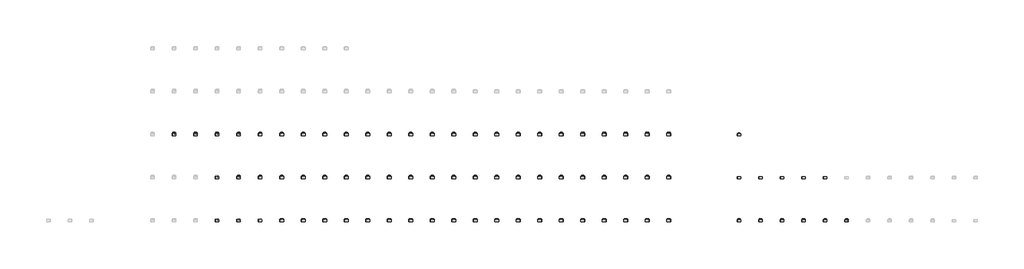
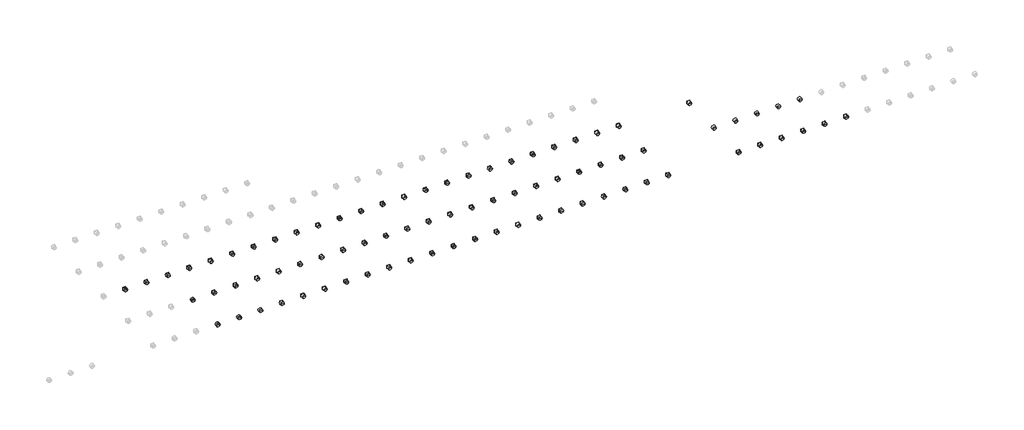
# One storey, part 8 of 18: 80 cable carrier fittings, 71 proxies.
"""IFC4 building model written with IfcOpenShell, lengths in millimetres."""

from ifc_helpers import new_model, si_unit, origin, place, context, project, spatial, transform, mapped, element, save
from components import electrical_fixtures_7a809f7f, electrical_fixtures_c40738ce, electrical_fixtures_fe53b4b8, electrical_fixtures_b8f18d17, electrical_fixtures_96b55c73, electrical_fixtures_2a9b6cd9, electrical_fixtures_82b3f8ca, cable_carrier_fitting_a64d4eba

model = new_model("IFC4")

# Units and contexts
model_context = context("Model", 3, world=origin())
ifc_project = project(units=[si_unit("LENGTHUNIT", "METRE", prefix="MILLI")], contexts=[model_context])

# Site, building, storey
site = spatial("IfcSite", under=ifc_project)
building = spatial("IfcBuilding", under=site)
storey = spatial("IfcBuildingStorey", under=building, Name="Этаж 01", Elevation=0.0)

# Proxies
placement = place(None, origin())
electrical_fixtures_shape = electrical_fixtures_7a809f7f(model_context)
element("IfcBuildingElementProxy", 1, Name="IEK_Brite_Механизм розетки 230В : 230 В_РС10-1-0-БрС", ObjectType="IEK_Brite_Механизм розетки 230В : 230 В_РС10-1-0-БрС", at=placement, inside=storey, context=model_context, shape_type="MappedRepresentation", body=[
    mapped(electrical_fixtures_shape, transform((42390.6847594, -17805.0, 0.0), x_axis=(1.0, 0.0, 0.0), y_axis=(0.0, 1.0, 0.0), z_axis=(0.0, 0.0, 1.0))),
])
element("IfcBuildingElementProxy", 2, Name="IEK_Brite_Механизм розетки 230В : 230 В_РС10-1-0-БрГ", ObjectType="IEK_Brite_Механизм розетки 230В : 230 В_РС10-1-0-БрГ", at=placement, inside=storey, context=model_context, shape_type="MappedRepresentation", body=[
    mapped(electrical_fixtures_shape, transform((42790.6847594, -17805.0, 0.0), x_axis=(1.0, 0.0, 0.0), y_axis=(0.0, 1.0, 0.0), z_axis=(0.0, 0.0, 1.0))),
])
element("IfcBuildingElementProxy", 3, Name="IEK_Brite_Механизм розетки 230В : 230 В_РС10-1-0-БрМ", ObjectType="IEK_Brite_Механизм розетки 230В : 230 В_РС10-1-0-БрМ", at=placement, inside=storey, context=model_context, shape_type="MappedRepresentation", body=[
    mapped(electrical_fixtures_shape, transform((43190.6847594, -17805.0, 0.0), x_axis=(1.0, 0.0, 0.0), y_axis=(0.0, 1.0, 0.0), z_axis=(0.0, 0.0, 1.0))),
])
element("IfcBuildingElementProxy", 4, Name="IEK_Brite_Механизм розетки 230В : 230 В_РС10-1-0-БрТБ", ObjectType="IEK_Brite_Механизм розетки 230В : 230 В_РС10-1-0-БрТБ", at=placement, inside=storey, context=model_context, shape_type="MappedRepresentation", body=[
    mapped(electrical_fixtures_shape, transform((43590.6847594, -17805.0, 0.0), x_axis=(1.0, 0.0, 0.0), y_axis=(0.0, 1.0, 0.0), z_axis=(0.0, 0.0, 1.0))),
])
electrical_fixtures_2_shape = electrical_fixtures_c40738ce(model_context)
element("IfcBuildingElementProxy", 5, Name="IEK_Brite_Механизм розетки 230В : 230 В PE_РС11-1-0-БрБ", ObjectType="IEK_Brite_Механизм розетки 230В : 230 В PE_РС11-1-0-БрБ", at=placement, inside=storey, context=model_context, shape_type="MappedRepresentation", body=[
    mapped(electrical_fixtures_2_shape, transform((43990.6847594, -17805.0, 0.0), x_axis=(1.0, 0.0, 0.0), y_axis=(0.0, 1.0, 0.0), z_axis=(0.0, 0.0, 1.0))),
])
element("IfcBuildingElementProxy", 6, Name="IEK_Brite_Механизм розетки 230В : 230 В PE_РС11-1-0-БрЧ", ObjectType="IEK_Brite_Механизм розетки 230В : 230 В PE_РС11-1-0-БрЧ", at=placement, inside=storey, context=model_context, shape_type="MappedRepresentation", body=[
    mapped(electrical_fixtures_2_shape, transform((44390.6847594, -17805.0, 0.0), x_axis=(1.0, 0.0, 0.0), y_axis=(0.0, 1.0, 0.0), z_axis=(0.0, 0.0, 1.0))),
])
element("IfcBuildingElementProxy", 7, Name="IEK_Brite_Механизм розетки 230В : 230 В PE_РС11-1-0-БрКр", ObjectType="IEK_Brite_Механизм розетки 230В : 230 В PE_РС11-1-0-БрКр", at=placement, inside=storey, context=model_context, shape_type="MappedRepresentation", body=[
    mapped(electrical_fixtures_2_shape, transform((44790.6847594, -17805.0, 0.0), x_axis=(1.0, 0.0, 0.0), y_axis=(0.0, 1.0, 0.0), z_axis=(0.0, 0.0, 1.0))),
])
element("IfcBuildingElementProxy", 8, Name="IEK_Brite_Механизм розетки 230В : 230 В PE_РС11-1-0-БрЖ", ObjectType="IEK_Brite_Механизм розетки 230В : 230 В PE_РС11-1-0-БрЖ", at=placement, inside=storey, context=model_context, shape_type="MappedRepresentation", body=[
    mapped(electrical_fixtures_2_shape, transform((45190.6847594, -17805.0, 0.0), x_axis=(1.0, 0.0, 0.0), y_axis=(0.0, 1.0, 0.0), z_axis=(0.0, 0.0, 1.0))),
])
element("IfcBuildingElementProxy", 9, Name="IEK_Brite_Механизм розетки 230В : 230 В PE_РС11-1-0-БрШ", ObjectType="IEK_Brite_Механизм розетки 230В : 230 В PE_РС11-1-0-БрШ", at=placement, inside=storey, context=model_context, shape_type="MappedRepresentation", body=[
    mapped(electrical_fixtures_2_shape, transform((45590.6847594, -17805.0, 0.0), x_axis=(1.0, 0.0, 0.0), y_axis=(0.0, 1.0, 0.0), z_axis=(0.0, 0.0, 1.0))),
])
element("IfcBuildingElementProxy", 10, Name="IEK_Brite_Механизм розетки 230В : 230 В PE_РС11-1-0-БрА", ObjectType="IEK_Brite_Механизм розетки 230В : 230 В PE_РС11-1-0-БрА", at=placement, inside=storey, context=model_context, shape_type="MappedRepresentation", body=[
    mapped(electrical_fixtures_2_shape, transform((45990.6847594, -17805.0, 0.0), x_axis=(1.0, 0.0, 0.0), y_axis=(0.0, 1.0, 0.0), z_axis=(0.0, 0.0, 1.0))),
])
element("IfcBuildingElementProxy", 11, Name="IEK_Brite_Механизм розетки 230В : 230 В PE_РС11-1-0-БрС", ObjectType="IEK_Brite_Механизм розетки 230В : 230 В PE_РС11-1-0-БрС", at=placement, inside=storey, context=model_context, shape_type="MappedRepresentation", body=[
    mapped(electrical_fixtures_2_shape, transform((46390.6847594, -17805.0, 0.0), x_axis=(1.0, 0.0, 0.0), y_axis=(0.0, 1.0, 0.0), z_axis=(0.0, 0.0, 1.0))),
])
element("IfcBuildingElementProxy", 12, Name="IEK_Brite_Механизм розетки 230В : 230 В PE_РС11-1-0-БрГ", ObjectType="IEK_Brite_Механизм розетки 230В : 230 В PE_РС11-1-0-БрГ", at=placement, inside=storey, context=model_context, shape_type="MappedRepresentation", body=[
    mapped(electrical_fixtures_2_shape, transform((46790.6847594, -17805.0, 0.0), x_axis=(1.0, 0.0, 0.0), y_axis=(0.0, 1.0, 0.0), z_axis=(0.0, 0.0, 1.0))),
])
element("IfcBuildingElementProxy", 13, Name="IEK_Brite_Механизм розетки 230В : 230 В PE_РС11-1-0-БрМ", ObjectType="IEK_Brite_Механизм розетки 230В : 230 В PE_РС11-1-0-БрМ", at=placement, inside=storey, context=model_context, shape_type="MappedRepresentation", body=[
    mapped(electrical_fixtures_2_shape, transform((47190.6847594, -17805.0, 0.0), x_axis=(1.0, 0.0, 0.0), y_axis=(0.0, 1.0, 0.0), z_axis=(0.0, 0.0, 1.0))),
])
element("IfcBuildingElementProxy", 14, Name="IEK_Brite_Механизм розетки 230В : 230 В PE_РС11-1-0-БрТБ", ObjectType="IEK_Brite_Механизм розетки 230В : 230 В PE_РС11-1-0-БрТБ", at=placement, inside=storey, context=model_context, shape_type="MappedRepresentation", body=[
    mapped(electrical_fixtures_2_shape, transform((47590.6847594, -17805.0, 0.0), x_axis=(1.0, 0.0, 0.0), y_axis=(0.0, 1.0, 0.0), z_axis=(0.0, 0.0, 1.0))),
])
element("IfcBuildingElementProxy", 15, Name="IEK_Brite_Механизм розетки 230В : 230 В шт._РСш10-2-БрБ", ObjectType="IEK_Brite_Механизм розетки 230В : 230 В шт._РСш10-2-БрБ", at=placement, inside=storey, context=model_context, shape_type="MappedRepresentation", body=[
    mapped(electrical_fixtures_shape, transform((47990.6847594, -17805.0, 0.0), x_axis=(1.0, 0.0, 0.0), y_axis=(0.0, 1.0, 0.0), z_axis=(0.0, 0.0, 1.0))),
])
element("IfcBuildingElementProxy", 16, Name="IEK_Brite_Механизм розетки 230В : 230 В шт._РСш10-2-БрЧ", ObjectType="IEK_Brite_Механизм розетки 230В : 230 В шт._РСш10-2-БрЧ", at=placement, inside=storey, context=model_context, shape_type="MappedRepresentation", body=[
    mapped(electrical_fixtures_shape, transform((48390.6847594, -17805.0, 0.0), x_axis=(1.0, 0.0, 0.0), y_axis=(0.0, 1.0, 0.0), z_axis=(0.0, 0.0, 1.0))),
])
element("IfcBuildingElementProxy", 17, Name="IEK_Brite_Механизм розетки 230В : 230 В шт._РСш10-2-БрКр", ObjectType="IEK_Brite_Механизм розетки 230В : 230 В шт._РСш10-2-БрКр", at=placement, inside=storey, context=model_context, shape_type="MappedRepresentation", body=[
    mapped(electrical_fixtures_shape, transform((48790.6847594, -17805.0, 0.0), x_axis=(1.0, 0.0, 0.0), y_axis=(0.0, 1.0, 0.0), z_axis=(0.0, 0.0, 1.0))),
])
element("IfcBuildingElementProxy", 18, Name="IEK_Brite_Механизм розетки 230В : 230 В шт._РСш10-2-БрЖ", ObjectType="IEK_Brite_Механизм розетки 230В : 230 В шт._РСш10-2-БрЖ", at=placement, inside=storey, context=model_context, shape_type="MappedRepresentation", body=[
    mapped(electrical_fixtures_shape, transform((49190.6847594, -17805.0, 0.0), x_axis=(1.0, 0.0, 0.0), y_axis=(0.0, 1.0, 0.0), z_axis=(0.0, 0.0, 1.0))),
])
element("IfcBuildingElementProxy", 19, Name="IEK_Brite_Механизм розетки 230В : 230 В шт._РСш10-2-БрШ", ObjectType="IEK_Brite_Механизм розетки 230В : 230 В шт._РСш10-2-БрШ", at=placement, inside=storey, context=model_context, shape_type="MappedRepresentation", body=[
    mapped(electrical_fixtures_shape, transform((49590.6847594, -17805.0, 0.0), x_axis=(1.0, 0.0, 0.0), y_axis=(0.0, 1.0, 0.0), z_axis=(0.0, 0.0, 1.0))),
])
element("IfcBuildingElementProxy", 20, Name="IEK_Brite_Механизм розетки 230В : 230 В шт._РСш10-2-БрТБ", ObjectType="IEK_Brite_Механизм розетки 230В : 230 В шт._РСш10-2-БрТБ", at=placement, inside=storey, context=model_context, shape_type="MappedRepresentation", body=[
    mapped(electrical_fixtures_shape, transform((41590.6847594, -17005.0, 0.0), x_axis=(1.0, 0.0, 0.0), y_axis=(0.0, 1.0, 0.0), z_axis=(0.0, 0.0, 1.0))),
])
element("IfcBuildingElementProxy", 21, Name="IEK_Brite_Механизм розетки 230В : 230 В PE+шт._РС14-1-0-БрБ", ObjectType="IEK_Brite_Механизм розетки 230В : 230 В PE+шт._РС14-1-0-БрБ", at=placement, inside=storey, context=model_context, shape_type="MappedRepresentation", body=[
    mapped(electrical_fixtures_2_shape, transform((41990.6847594, -17005.0, 0.0), x_axis=(1.0, 0.0, 0.0), y_axis=(0.0, 1.0, 0.0), z_axis=(0.0, 0.0, 1.0))),
])
element("IfcBuildingElementProxy", 22, Name="IEK_Brite_Механизм розетки 230В : 230 В PE+шт._РС14-1-0-БрЧ", ObjectType="IEK_Brite_Механизм розетки 230В : 230 В PE+шт._РС14-1-0-БрЧ", at=placement, inside=storey, context=model_context, shape_type="MappedRepresentation", body=[
    mapped(electrical_fixtures_2_shape, transform((42390.6847594, -17005.0, 0.0), x_axis=(1.0, 0.0, 0.0), y_axis=(0.0, 1.0, 0.0), z_axis=(0.0, 0.0, 1.0))),
])
element("IfcBuildingElementProxy", 23, Name="IEK_Brite_Механизм розетки 230В : 230 В PE+шт._РС14-1-0-БрКр", ObjectType="IEK_Brite_Механизм розетки 230В : 230 В PE+шт._РС14-1-0-БрКр", at=placement, inside=storey, context=model_context, shape_type="MappedRepresentation", body=[
    mapped(electrical_fixtures_2_shape, transform((42790.6847594, -17005.0, 0.0), x_axis=(1.0, 0.0, 0.0), y_axis=(0.0, 1.0, 0.0), z_axis=(0.0, 0.0, 1.0))),
])
element("IfcBuildingElementProxy", 24, Name="IEK_Brite_Механизм розетки 230В : 230 В PE+шт._РС14-1-0-БрЖ", ObjectType="IEK_Brite_Механизм розетки 230В : 230 В PE+шт._РС14-1-0-БрЖ", at=placement, inside=storey, context=model_context, shape_type="MappedRepresentation", body=[
    mapped(electrical_fixtures_2_shape, transform((43190.6847594, -17005.0, 0.0), x_axis=(1.0, 0.0, 0.0), y_axis=(0.0, 1.0, 0.0), z_axis=(0.0, 0.0, 1.0))),
])
element("IfcBuildingElementProxy", 25, Name="IEK_Brite_Механизм розетки 230В : 230 В PE+шт._РС14-1-0-БрШ", ObjectType="IEK_Brite_Механизм розетки 230В : 230 В PE+шт._РС14-1-0-БрШ", at=placement, inside=storey, context=model_context, shape_type="MappedRepresentation", body=[
    mapped(electrical_fixtures_2_shape, transform((43590.6847594, -17005.0, 0.0), x_axis=(1.0, 0.0, 0.0), y_axis=(0.0, 1.0, 0.0), z_axis=(0.0, 0.0, 1.0))),
])
element("IfcBuildingElementProxy", 26, Name="IEK_Brite_Механизм розетки 230В : 230 В PE+шт._РС14-1-0-БрА", ObjectType="IEK_Brite_Механизм розетки 230В : 230 В PE+шт._РС14-1-0-БрА", at=placement, inside=storey, context=model_context, shape_type="MappedRepresentation", body=[
    mapped(electrical_fixtures_2_shape, transform((43990.6847594, -17005.0, 0.0), x_axis=(1.0, 0.0, 0.0), y_axis=(0.0, 1.0, 0.0), z_axis=(0.0, 0.0, 1.0))),
])
element("IfcBuildingElementProxy", 27, Name="IEK_Brite_Механизм розетки 230В : 230 В PE+шт._РС14-1-0-БрС", ObjectType="IEK_Brite_Механизм розетки 230В : 230 В PE+шт._РС14-1-0-БрС", at=placement, inside=storey, context=model_context, shape_type="MappedRepresentation", body=[
    mapped(electrical_fixtures_2_shape, transform((44390.6847594, -17005.0, 0.0), x_axis=(1.0, 0.0, 0.0), y_axis=(0.0, 1.0, 0.0), z_axis=(0.0, 0.0, 1.0))),
])
element("IfcBuildingElementProxy", 28, Name="IEK_Brite_Механизм розетки 230В : 230 В PE+шт._РС14-1-0-БрГ", ObjectType="IEK_Brite_Механизм розетки 230В : 230 В PE+шт._РС14-1-0-БрГ", at=placement, inside=storey, context=model_context, shape_type="MappedRepresentation", body=[
    mapped(electrical_fixtures_2_shape, transform((44790.6847594, -17005.0, 0.0), x_axis=(1.0, 0.0, 0.0), y_axis=(0.0, 1.0, 0.0), z_axis=(0.0, 0.0, 1.0))),
])
element("IfcBuildingElementProxy", 29, Name="IEK_Brite_Механизм розетки 230В : 230 В PE+шт._РС14-1-0-БрМ", ObjectType="IEK_Brite_Механизм розетки 230В : 230 В PE+шт._РС14-1-0-БрМ", at=placement, inside=storey, context=model_context, shape_type="MappedRepresentation", body=[
    mapped(electrical_fixtures_2_shape, transform((45190.6847594, -17005.0, 0.0), x_axis=(1.0, 0.0, 0.0), y_axis=(0.0, 1.0, 0.0), z_axis=(0.0, 0.0, 1.0))),
])
element("IfcBuildingElementProxy", 30, Name="IEK_Brite_Механизм розетки 230В : 230 В PE+шт._РС14-1-0-БрТБ", ObjectType="IEK_Brite_Механизм розетки 230В : 230 В PE+шт._РС14-1-0-БрТБ", at=placement, inside=storey, context=model_context, shape_type="MappedRepresentation", body=[
    mapped(electrical_fixtures_2_shape, transform((45590.6847594, -17005.0, 0.0), x_axis=(1.0, 0.0, 0.0), y_axis=(0.0, 1.0, 0.0), z_axis=(0.0, 0.0, 1.0))),
])
electrical_fixtures_3_shape = electrical_fixtures_fe53b4b8(model_context)
element("IfcBuildingElementProxy", 31, Name="IEK_Brite_Механизм розетки 230В : 230 В PE+шт. USB A+A_РЮш10-1-БрБ", ObjectType="IEK_Brite_Механизм розетки 230В : 230 В PE+шт. USB A+A_РЮш10-1-БрБ", at=placement, inside=storey, context=model_context, shape_type="MappedRepresentation", body=[
    mapped(electrical_fixtures_3_shape, transform((45990.6847594, -17005.0, 0.0), x_axis=(1.0, 0.0, 0.0), y_axis=(0.0, 1.0, 0.0), z_axis=(0.0, 0.0, 1.0))),
])
element("IfcBuildingElementProxy", 32, Name="IEK_Brite_Механизм розетки 230В : 230 В PE+шт. USB A+A_РЮш10-1-БрЧ", ObjectType="IEK_Brite_Механизм розетки 230В : 230 В PE+шт. USB A+A_РЮш10-1-БрЧ", at=placement, inside=storey, context=model_context, shape_type="MappedRepresentation", body=[
    mapped(electrical_fixtures_3_shape, transform((46390.6847594, -17005.0, 0.0), x_axis=(1.0, 0.0, 0.0), y_axis=(0.0, 1.0, 0.0), z_axis=(0.0, 0.0, 1.0))),
])
element("IfcBuildingElementProxy", 33, Name="IEK_Brite_Механизм розетки 230В : 230 В PE+шт. USB A+A_РЮш10-1-БрКр", ObjectType="IEK_Brite_Механизм розетки 230В : 230 В PE+шт. USB A+A_РЮш10-1-БрКр", at=placement, inside=storey, context=model_context, shape_type="MappedRepresentation", body=[
    mapped(electrical_fixtures_3_shape, transform((46790.6847594, -17005.0, 0.0), x_axis=(1.0, 0.0, 0.0), y_axis=(0.0, 1.0, 0.0), z_axis=(0.0, 0.0, 1.0))),
])
element("IfcBuildingElementProxy", 34, Name="IEK_Brite_Механизм розетки 230В : 230 В PE+шт. USB A+A_РЮш10-1-БрЖ", ObjectType="IEK_Brite_Механизм розетки 230В : 230 В PE+шт. USB A+A_РЮш10-1-БрЖ", at=placement, inside=storey, context=model_context, shape_type="MappedRepresentation", body=[
    mapped(electrical_fixtures_3_shape, transform((47190.6847594, -17005.0, 0.0), x_axis=(1.0, 0.0, 0.0), y_axis=(0.0, 1.0, 0.0), z_axis=(0.0, 0.0, 1.0))),
])
element("IfcBuildingElementProxy", 35, Name="IEK_Brite_Механизм розетки 230В : 230 В PE+шт. USB A+A_РЮш10-1-БрШ", ObjectType="IEK_Brite_Механизм розетки 230В : 230 В PE+шт. USB A+A_РЮш10-1-БрШ", at=placement, inside=storey, context=model_context, shape_type="MappedRepresentation", body=[
    mapped(electrical_fixtures_3_shape, transform((47590.6847594, -17005.0, 0.0), x_axis=(1.0, 0.0, 0.0), y_axis=(0.0, 1.0, 0.0), z_axis=(0.0, 0.0, 1.0))),
])
element("IfcBuildingElementProxy", 36, Name="IEK_Brite_Механизм розетки 230В : 230 В PE+шт. USB A+A_РЮш10-1-БрА", ObjectType="IEK_Brite_Механизм розетки 230В : 230 В PE+шт. USB A+A_РЮш10-1-БрА", at=placement, inside=storey, context=model_context, shape_type="MappedRepresentation", body=[
    mapped(electrical_fixtures_3_shape, transform((47990.6847594, -17005.0, 0.0), x_axis=(1.0, 0.0, 0.0), y_axis=(0.0, 1.0, 0.0), z_axis=(0.0, 0.0, 1.0))),
])
element("IfcBuildingElementProxy", 37, Name="IEK_Brite_Механизм розетки 230В : 230 В PE+шт. USB A+A_РЮш10-1-БрС", ObjectType="IEK_Brite_Механизм розетки 230В : 230 В PE+шт. USB A+A_РЮш10-1-БрС", at=placement, inside=storey, context=model_context, shape_type="MappedRepresentation", body=[
    mapped(electrical_fixtures_3_shape, transform((48390.6847594, -17005.0, 0.0), x_axis=(1.0, 0.0, 0.0), y_axis=(0.0, 1.0, 0.0), z_axis=(0.0, 0.0, 1.0))),
])
element("IfcBuildingElementProxy", 38, Name="IEK_Brite_Механизм розетки 230В : 230 В PE+шт. USB A+A_РЮш10-1-БрГ", ObjectType="IEK_Brite_Механизм розетки 230В : 230 В PE+шт. USB A+A_РЮш10-1-БрГ", at=placement, inside=storey, context=model_context, shape_type="MappedRepresentation", body=[
    mapped(electrical_fixtures_3_shape, transform((48790.6847594, -17005.0, 0.0), x_axis=(1.0, 0.0, 0.0), y_axis=(0.0, 1.0, 0.0), z_axis=(0.0, 0.0, 1.0))),
])
element("IfcBuildingElementProxy", 39, Name="IEK_Brite_Механизм розетки 230В : 230 В PE+шт. USB A+A_РЮш10-1-БрМ", ObjectType="IEK_Brite_Механизм розетки 230В : 230 В PE+шт. USB A+A_РЮш10-1-БрМ", at=placement, inside=storey, context=model_context, shape_type="MappedRepresentation", body=[
    mapped(electrical_fixtures_3_shape, transform((49190.6847594, -17005.0, 0.0), x_axis=(1.0, 0.0, 0.0), y_axis=(0.0, 1.0, 0.0), z_axis=(0.0, 0.0, 1.0))),
])
element("IfcBuildingElementProxy", 40, Name="IEK_Brite_Механизм розетки 230В : 230 В PE+шт. USB A+A_РЮш10-1-БрТБ", ObjectType="IEK_Brite_Механизм розетки 230В : 230 В PE+шт. USB A+A_РЮш10-1-БрТБ", at=placement, inside=storey, context=model_context, shape_type="MappedRepresentation", body=[
    mapped(electrical_fixtures_3_shape, transform((49590.6847594, -17005.0, 0.0), x_axis=(1.0, 0.0, 0.0), y_axis=(0.0, 1.0, 0.0), z_axis=(0.0, 0.0, 1.0))),
])
element("IfcBuildingElementProxy", 41, Name="IEK_Brite_Механизм розетки 230В : 230 В PE+шт. USB A+A_РЮш10-2-БрЧ", ObjectType="IEK_Brite_Механизм розетки 230В : 230 В PE+шт. USB A+A_РЮш10-2-БрЧ", at=placement, inside=storey, context=model_context, shape_type="MappedRepresentation", body=[
    mapped(electrical_fixtures_3_shape, transform((40390.6847594, -16205.0, 0.0), x_axis=(1.0, 0.0, 0.0), y_axis=(0.0, 1.0, 0.0), z_axis=(0.0, 0.0, 1.0))),
])
element("IfcBuildingElementProxy", 42, Name="IEK_Brite_Механизм розетки 230В : 230 В PE+шт. USB A+A_РЮш10-2-БрКр", ObjectType="IEK_Brite_Механизм розетки 230В : 230 В PE+шт. USB A+A_РЮш10-2-БрКр", at=placement, inside=storey, context=model_context, shape_type="MappedRepresentation", body=[
    mapped(electrical_fixtures_3_shape, transform((40790.6847594, -16205.0, 0.0), x_axis=(1.0, 0.0, 0.0), y_axis=(0.0, 1.0, 0.0), z_axis=(0.0, 0.0, 1.0))),
])
element("IfcBuildingElementProxy", 43, Name="IEK_Brite_Механизм розетки 230В : 230 В PE+шт. USB A+A_РЮш10-2-БрЖ", ObjectType="IEK_Brite_Механизм розетки 230В : 230 В PE+шт. USB A+A_РЮш10-2-БрЖ", at=placement, inside=storey, context=model_context, shape_type="MappedRepresentation", body=[
    mapped(electrical_fixtures_3_shape, transform((41190.6847594, -16205.0, 0.0), x_axis=(1.0, 0.0, 0.0), y_axis=(0.0, 1.0, 0.0), z_axis=(0.0, 0.0, 1.0))),
])
element("IfcBuildingElementProxy", 44, Name="IEK_Brite_Механизм розетки 230В : 230 В PE+шт. USB A+A_РЮш10-2-БрШ", ObjectType="IEK_Brite_Механизм розетки 230В : 230 В PE+шт. USB A+A_РЮш10-2-БрШ", at=placement, inside=storey, context=model_context, shape_type="MappedRepresentation", body=[
    mapped(electrical_fixtures_3_shape, transform((41590.6847594, -16205.0, 0.0), x_axis=(1.0, 0.0, 0.0), y_axis=(0.0, 1.0, 0.0), z_axis=(0.0, 0.0, 1.0))),
])
element("IfcBuildingElementProxy", 45, Name="IEK_Brite_Механизм розетки 230В : 230 В PE+шт. USB A+A_РЮш10-2-БрА", ObjectType="IEK_Brite_Механизм розетки 230В : 230 В PE+шт. USB A+A_РЮш10-2-БрА", at=placement, inside=storey, context=model_context, shape_type="MappedRepresentation", body=[
    mapped(electrical_fixtures_3_shape, transform((41990.6847594, -16205.0, 0.0), x_axis=(1.0, 0.0, 0.0), y_axis=(0.0, 1.0, 0.0), z_axis=(0.0, 0.0, 1.0))),
])
element("IfcBuildingElementProxy", 46, Name="IEK_Brite_Механизм розетки 230В : 230 В PE+шт. USB A+A_РЮш10-2-БрС", ObjectType="IEK_Brite_Механизм розетки 230В : 230 В PE+шт. USB A+A_РЮш10-2-БрС", at=placement, inside=storey, context=model_context, shape_type="MappedRepresentation", body=[
    mapped(electrical_fixtures_3_shape, transform((42390.6847594, -16205.0, 0.0), x_axis=(1.0, 0.0, 0.0), y_axis=(0.0, 1.0, 0.0), z_axis=(0.0, 0.0, 1.0))),
])
element("IfcBuildingElementProxy", 47, Name="IEK_Brite_Механизм розетки 230В : 230 В PE+шт. USB A+A_РЮш10-2-БрГ", ObjectType="IEK_Brite_Механизм розетки 230В : 230 В PE+шт. USB A+A_РЮш10-2-БрГ", at=placement, inside=storey, context=model_context, shape_type="MappedRepresentation", body=[
    mapped(electrical_fixtures_3_shape, transform((42790.6847594, -16205.0, 0.0), x_axis=(1.0, 0.0, 0.0), y_axis=(0.0, 1.0, 0.0), z_axis=(0.0, 0.0, 1.0))),
])
element("IfcBuildingElementProxy", 48, Name="IEK_Brite_Механизм розетки 230В : 230 В PE+шт. USB A+A_РЮш10-2-БрМ", ObjectType="IEK_Brite_Механизм розетки 230В : 230 В PE+шт. USB A+A_РЮш10-2-БрМ", at=placement, inside=storey, context=model_context, shape_type="MappedRepresentation", body=[
    mapped(electrical_fixtures_3_shape, transform((43190.6847594, -16205.0, 0.0), x_axis=(1.0, 0.0, 0.0), y_axis=(0.0, 1.0, 0.0), z_axis=(0.0, 0.0, 1.0))),
])
element("IfcBuildingElementProxy", 49, Name="IEK_Brite_Механизм розетки 230В : 230 В PE+шт. USB A+A_РЮш10-2-БрТБ", ObjectType="IEK_Brite_Механизм розетки 230В : 230 В PE+шт. USB A+A_РЮш10-2-БрТБ", at=placement, inside=storey, context=model_context, shape_type="MappedRepresentation", body=[
    mapped(electrical_fixtures_3_shape, transform((43590.6847594, -16205.0, 0.0), x_axis=(1.0, 0.0, 0.0), y_axis=(0.0, 1.0, 0.0), z_axis=(0.0, 0.0, 1.0))),
])
electrical_fixtures_4_shape = electrical_fixtures_b8f18d17(model_context)
element("IfcBuildingElementProxy", 50, Name="IEK_Brite_Механизм розетки 230В : 230 В PE+шт. USB A+C_РЮш11-1-БрБ", ObjectType="IEK_Brite_Механизм розетки 230В : 230 В PE+шт. USB A+C_РЮш11-1-БрБ", at=placement, inside=storey, context=model_context, shape_type="MappedRepresentation", body=[
    mapped(electrical_fixtures_4_shape, transform((43990.6847594, -16205.0, 0.0), x_axis=(1.0, 0.0, 0.0), y_axis=(0.0, 1.0, 0.0), z_axis=(0.0, 0.0, 1.0))),
])
element("IfcBuildingElementProxy", 51, Name="IEK_Brite_Механизм розетки 230В : 230 В PE+шт. USB A+C_РЮш11-1-БрЧ", ObjectType="IEK_Brite_Механизм розетки 230В : 230 В PE+шт. USB A+C_РЮш11-1-БрЧ", at=placement, inside=storey, context=model_context, shape_type="MappedRepresentation", body=[
    mapped(electrical_fixtures_4_shape, transform((44390.6847594, -16205.0, 0.0), x_axis=(1.0, 0.0, 0.0), y_axis=(0.0, 1.0, 0.0), z_axis=(0.0, 0.0, 1.0))),
])
element("IfcBuildingElementProxy", 52, Name="IEK_Brite_Механизм розетки 230В : 230 В PE+шт. USB A+C_РЮш11-1-БрКр", ObjectType="IEK_Brite_Механизм розетки 230В : 230 В PE+шт. USB A+C_РЮш11-1-БрКр", at=placement, inside=storey, context=model_context, shape_type="MappedRepresentation", body=[
    mapped(electrical_fixtures_4_shape, transform((44790.6847594, -16205.0, 0.0), x_axis=(1.0, 0.0, 0.0), y_axis=(0.0, 1.0, 0.0), z_axis=(0.0, 0.0, 1.0))),
])
element("IfcBuildingElementProxy", 53, Name="IEK_Brite_Механизм розетки 230В : 230 В PE+шт. USB A+C_РЮш11-1-БрЖ", ObjectType="IEK_Brite_Механизм розетки 230В : 230 В PE+шт. USB A+C_РЮш11-1-БрЖ", at=placement, inside=storey, context=model_context, shape_type="MappedRepresentation", body=[
    mapped(electrical_fixtures_4_shape, transform((45190.6847594, -16205.0, 0.0), x_axis=(1.0, 0.0, 0.0), y_axis=(0.0, 1.0, 0.0), z_axis=(0.0, 0.0, 1.0))),
])
element("IfcBuildingElementProxy", 54, Name="IEK_Brite_Механизм розетки 230В : 230 В PE+шт. USB A+C_РЮш11-1-БрШ", ObjectType="IEK_Brite_Механизм розетки 230В : 230 В PE+шт. USB A+C_РЮш11-1-БрШ", at=placement, inside=storey, context=model_context, shape_type="MappedRepresentation", body=[
    mapped(electrical_fixtures_4_shape, transform((45590.6847594, -16205.0, 0.0), x_axis=(1.0, 0.0, 0.0), y_axis=(0.0, 1.0, 0.0), z_axis=(0.0, 0.0, 1.0))),
])
element("IfcBuildingElementProxy", 55, Name="IEK_Brite_Механизм розетки 230В : 230 В PE+шт. USB A+C_РЮш11-1-БрА", ObjectType="IEK_Brite_Механизм розетки 230В : 230 В PE+шт. USB A+C_РЮш11-1-БрА", at=placement, inside=storey, context=model_context, shape_type="MappedRepresentation", body=[
    mapped(electrical_fixtures_4_shape, transform((45990.6847594, -16205.0, 0.0), x_axis=(1.0, 0.0, 0.0), y_axis=(0.0, 1.0, 0.0), z_axis=(0.0, 0.0, 1.0))),
])
element("IfcBuildingElementProxy", 56, Name="IEK_Brite_Механизм розетки 230В : 230 В PE+шт. USB A+C_РЮш11-1-БрС", ObjectType="IEK_Brite_Механизм розетки 230В : 230 В PE+шт. USB A+C_РЮш11-1-БрС", at=placement, inside=storey, context=model_context, shape_type="MappedRepresentation", body=[
    mapped(electrical_fixtures_4_shape, transform((46390.6847594, -16205.0, 0.0), x_axis=(1.0, 0.0, 0.0), y_axis=(0.0, 1.0, 0.0), z_axis=(0.0, 0.0, 1.0))),
])
element("IfcBuildingElementProxy", 57, Name="IEK_Brite_Механизм розетки 230В : 230 В PE+шт. USB A+C_РЮш11-1-БрГ", ObjectType="IEK_Brite_Механизм розетки 230В : 230 В PE+шт. USB A+C_РЮш11-1-БрГ", at=placement, inside=storey, context=model_context, shape_type="MappedRepresentation", body=[
    mapped(electrical_fixtures_4_shape, transform((46790.6847594, -16205.0, 0.0), x_axis=(1.0, 0.0, 0.0), y_axis=(0.0, 1.0, 0.0), z_axis=(0.0, 0.0, 1.0))),
])
element("IfcBuildingElementProxy", 58, Name="IEK_Brite_Механизм розетки 230В : 230 В PE+шт. USB A+C_РЮш11-1-БрМ", ObjectType="IEK_Brite_Механизм розетки 230В : 230 В PE+шт. USB A+C_РЮш11-1-БрМ", at=placement, inside=storey, context=model_context, shape_type="MappedRepresentation", body=[
    mapped(electrical_fixtures_4_shape, transform((47190.6847594, -16205.0, 0.0), x_axis=(1.0, 0.0, 0.0), y_axis=(0.0, 1.0, 0.0), z_axis=(0.0, 0.0, 1.0))),
])
element("IfcBuildingElementProxy", 59, Name="IEK_Brite_Механизм розетки 230В : 230 В PE+шт. USB A+C_РЮш11-1-БрТБ", ObjectType="IEK_Brite_Механизм розетки 230В : 230 В PE+шт. USB A+C_РЮш11-1-БрТБ", at=placement, inside=storey, context=model_context, shape_type="MappedRepresentation", body=[
    mapped(electrical_fixtures_4_shape, transform((47590.6847594, -16205.0, 0.0), x_axis=(1.0, 0.0, 0.0), y_axis=(0.0, 1.0, 0.0), z_axis=(0.0, 0.0, 1.0))),
])
electrical_fixtures_5_shape = electrical_fixtures_96b55c73(model_context)
element("IfcBuildingElementProxy", 60, Name="IEK_Brite_Механизм розетки 230В : 230 В PE+шт.+кр. IP44_РСбш10-3-44-БрБ", ObjectType="IEK_Brite_Механизм розетки 230В : 230 В PE+шт.+кр. IP44_РСбш10-3-44-БрБ", at=placement, inside=storey, context=model_context, shape_type="MappedRepresentation", body=[
    mapped(electrical_fixtures_5_shape, transform((47990.6847594, -16205.0, 0.0), x_axis=(1.0, 0.0, 0.0), y_axis=(0.0, 1.0, 0.0), z_axis=(0.0, 0.0, 1.0))),
])
element("IfcBuildingElementProxy", 61, Name="IEK_Brite_Механизм розетки 230В : 230 В PE+шт.+кр. IP44_РСбш10-3-44-БрЧ", ObjectType="IEK_Brite_Механизм розетки 230В : 230 В PE+шт.+кр. IP44_РСбш10-3-44-БрЧ", at=placement, inside=storey, context=model_context, shape_type="MappedRepresentation", body=[
    mapped(electrical_fixtures_5_shape, transform((48390.6847594, -16205.0, 0.0), x_axis=(1.0, 0.0, 0.0), y_axis=(0.0, 1.0, 0.0), z_axis=(0.0, 0.0, 1.0))),
])
element("IfcBuildingElementProxy", 62, Name="IEK_Brite_Механизм розетки 230В : 230 В PE+шт.+кр. IP44_РСбш10-3-44-БрКр", ObjectType="IEK_Brite_Механизм розетки 230В : 230 В PE+шт.+кр. IP44_РСбш10-3-44-БрКр", at=placement, inside=storey, context=model_context, shape_type="MappedRepresentation", body=[
    mapped(electrical_fixtures_5_shape, transform((48790.6847594, -16205.0, 0.0), x_axis=(1.0, 0.0, 0.0), y_axis=(0.0, 1.0, 0.0), z_axis=(0.0, 0.0, 1.0))),
])
element("IfcBuildingElementProxy", 63, Name="IEK_Brite_Механизм розетки 230В : 230 В PE+шт.+кр. IP44_РСбш10-3-44-БрЖ", ObjectType="IEK_Brite_Механизм розетки 230В : 230 В PE+шт.+кр. IP44_РСбш10-3-44-БрЖ", at=placement, inside=storey, context=model_context, shape_type="MappedRepresentation", body=[
    mapped(electrical_fixtures_5_shape, transform((49190.6847594, -16205.0, 0.0), x_axis=(1.0, 0.0, 0.0), y_axis=(0.0, 1.0, 0.0), z_axis=(0.0, 0.0, 1.0))),
])
element("IfcBuildingElementProxy", 64, Name="IEK_Brite_Механизм розетки 230В : 230 В PE+шт.+кр. IP44_РСбш10-3-44-БрШ", ObjectType="IEK_Brite_Механизм розетки 230В : 230 В PE+шт.+кр. IP44_РСбш10-3-44-БрШ", at=placement, inside=storey, context=model_context, shape_type="MappedRepresentation", body=[
    mapped(electrical_fixtures_5_shape, transform((49590.6847594, -16205.0, 0.0), x_axis=(1.0, 0.0, 0.0), y_axis=(0.0, 1.0, 0.0), z_axis=(0.0, 0.0, 1.0))),
])
electrical_fixtures_6_shape = electrical_fixtures_2a9b6cd9(model_context)
element("IfcBuildingElementProxy", 65, Name="IEK_Brite_Механизм розетки информационной : RJ45+RJ11_РК/Т12-БрА", ObjectType="IEK_Brite_Механизм розетки информационной : RJ45+RJ11_РК/Т12-БрА", at=placement, inside=storey, context=model_context, shape_type="MappedRepresentation", body=[
    mapped(electrical_fixtures_6_shape, transform((50896.7386318, -17813.0, 0.0), x_axis=(1.0, 0.0, 0.0), y_axis=(0.0, 1.0, 0.0), z_axis=(0.0, 0.0, 1.0))),
])
element("IfcBuildingElementProxy", 66, Name="IEK_Brite_Механизм розетки информационной : RJ45+RJ11_РК/Т12-БрБ", ObjectType="IEK_Brite_Механизм розетки информационной : RJ45+RJ11_РК/Т12-БрБ", at=placement, inside=storey, context=model_context, shape_type="MappedRepresentation", body=[
    mapped(electrical_fixtures_6_shape, transform((51296.7386318, -17813.0, 0.0), x_axis=(1.0, 0.0, 0.0), y_axis=(0.0, 1.0, 0.0), z_axis=(0.0, 0.0, 1.0))),
])
element("IfcBuildingElementProxy", 67, Name="IEK_Brite_Механизм розетки информационной : RJ45+RJ11_РК/Т12-БрГ", ObjectType="IEK_Brite_Механизм розетки информационной : RJ45+RJ11_РК/Т12-БрГ", at=placement, inside=storey, context=model_context, shape_type="MappedRepresentation", body=[
    mapped(electrical_fixtures_6_shape, transform((51696.7386318, -17813.0, 0.0), x_axis=(1.0, 0.0, 0.0), y_axis=(0.0, 1.0, 0.0), z_axis=(0.0, 0.0, 1.0))),
])
element("IfcBuildingElementProxy", 68, Name="IEK_Brite_Механизм розетки информационной : RJ45+RJ11_РК/Т12-БрЖ", ObjectType="IEK_Brite_Механизм розетки информационной : RJ45+RJ11_РК/Т12-БрЖ", at=placement, inside=storey, context=model_context, shape_type="MappedRepresentation", body=[
    mapped(electrical_fixtures_6_shape, transform((52096.7386318, -17813.0, 0.0), x_axis=(1.0, 0.0, 0.0), y_axis=(0.0, 1.0, 0.0), z_axis=(0.0, 0.0, 1.0))),
])
element("IfcBuildingElementProxy", 69, Name="IEK_Brite_Механизм розетки информационной : RJ45+RJ11_РК/Т12-БрКр", ObjectType="IEK_Brite_Механизм розетки информационной : RJ45+RJ11_РК/Т12-БрКр", at=placement, inside=storey, context=model_context, shape_type="MappedRepresentation", body=[
    mapped(electrical_fixtures_6_shape, transform((52496.7386318, -17813.0, 0.0), x_axis=(1.0, 0.0, 0.0), y_axis=(0.0, 1.0, 0.0), z_axis=(0.0, 0.0, 1.0))),
])
element("IfcBuildingElementProxy", 70, Name="IEK_Brite_Механизм розетки информационной : RJ45+RJ11_РК/Т12-БрМ", ObjectType="IEK_Brite_Механизм розетки информационной : RJ45+RJ11_РК/Т12-БрМ", at=placement, inside=storey, context=model_context, shape_type="MappedRepresentation", body=[
    mapped(electrical_fixtures_6_shape, transform((52896.7386318, -17813.0, 0.0), x_axis=(1.0, 0.0, 0.0), y_axis=(0.0, 1.0, 0.0), z_axis=(0.0, 0.0, 1.0))),
])
electrical_fixtures_7_shape = electrical_fixtures_82b3f8ca(model_context)
element("IfcBuildingElementProxy", 71, Name="IEK_Brite_Механизм розетки информационной : RJ11_РТ10-БрБ", ObjectType="IEK_Brite_Механизм розетки информационной : RJ11_РТ10-БрБ", at=placement, inside=storey, context=model_context, shape_type="MappedRepresentation", body=[
    mapped(electrical_fixtures_7_shape, transform((50896.7386318, -16213.0, 0.0), x_axis=(1.0, 0.0, 0.0), y_axis=(0.0, 1.0, 0.0), z_axis=(0.0, 0.0, 1.0))),
])

# Cable carrier fittings
cable_carrier_fitting_shape = cable_carrier_fitting_a64d4eba(model_context)
element("IfcCableCarrierFitting", 72, ObjectType="IEK_Коробка монтажная : стены_полые", at=placement, inside=storey, context=model_context, shape_type="MappedRepresentation", body=[
    mapped(cable_carrier_fitting_shape, transform((50896.7386318, -17813.0, 0.0), x_axis=(1.0, 0.0, 0.0), y_axis=(0.0, 1.0, 0.0), z_axis=(0.0, 0.0, 1.0))),
])
element("IfcCableCarrierFitting", 73, ObjectType="IEK_Коробка монтажная : стены_полые", at=placement, inside=storey, context=model_context, shape_type="MappedRepresentation", body=[
    mapped(cable_carrier_fitting_shape, transform((51296.7386318, -17813.0, 0.0), x_axis=(1.0, 0.0, 0.0), y_axis=(0.0, 1.0, 0.0), z_axis=(0.0, 0.0, 1.0))),
])
element("IfcCableCarrierFitting", 74, ObjectType="IEK_Коробка монтажная : стены_полые", at=placement, inside=storey, context=model_context, shape_type="MappedRepresentation", body=[
    mapped(cable_carrier_fitting_shape, transform((51696.7386318, -17813.0, 0.0), x_axis=(1.0, 0.0, 0.0), y_axis=(0.0, 1.0, 0.0), z_axis=(0.0, 0.0, 1.0))),
])
element("IfcCableCarrierFitting", 75, ObjectType="IEK_Коробка монтажная : стены_полые", at=placement, inside=storey, context=model_context, shape_type="MappedRepresentation", body=[
    mapped(cable_carrier_fitting_shape, transform((52096.7386318, -17813.0, 0.0), x_axis=(1.0, 0.0, 0.0), y_axis=(0.0, 1.0, 0.0), z_axis=(0.0, 0.0, 1.0))),
])
element("IfcCableCarrierFitting", 76, ObjectType="IEK_Коробка монтажная : стены_полые", at=placement, inside=storey, context=model_context, shape_type="MappedRepresentation", body=[
    mapped(cable_carrier_fitting_shape, transform((52496.7386318, -17813.0, 0.0), x_axis=(1.0, 0.0, 0.0), y_axis=(0.0, 1.0, 0.0), z_axis=(0.0, 0.0, 1.0))),
])
element("IfcCableCarrierFitting", 77, ObjectType="IEK_Коробка монтажная : стены_полые", at=placement, inside=storey, context=model_context, shape_type="MappedRepresentation", body=[
    mapped(cable_carrier_fitting_shape, transform((52896.7386318, -17813.0, 0.0), x_axis=(1.0, 0.0, 0.0), y_axis=(0.0, 1.0, 0.0), z_axis=(0.0, 0.0, 1.0))),
])
element("IfcCableCarrierFitting", 78, ObjectType="IEK_Коробка монтажная : стены_полые", at=placement, inside=storey, context=model_context, shape_type="MappedRepresentation", body=[
    mapped(cable_carrier_fitting_shape, transform((50896.7386318, -17013.0, 0.0), x_axis=(1.0, 0.0, 0.0), y_axis=(0.0, 1.0, 0.0), z_axis=(0.0, 0.0, 1.0))),
])
element("IfcCableCarrierFitting", 79, ObjectType="IEK_Коробка монтажная : стены_полые", at=placement, inside=storey, context=model_context, shape_type="MappedRepresentation", body=[
    mapped(cable_carrier_fitting_shape, transform((51296.7386318, -17013.0, 0.0), x_axis=(1.0, 0.0, 0.0), y_axis=(0.0, 1.0, 0.0), z_axis=(0.0, 0.0, 1.0))),
])
element("IfcCableCarrierFitting", 80, ObjectType="IEK_Коробка монтажная : стены_полые", at=placement, inside=storey, context=model_context, shape_type="MappedRepresentation", body=[
    mapped(cable_carrier_fitting_shape, transform((51696.7386318, -17013.0, 0.0), x_axis=(1.0, 0.0, 0.0), y_axis=(0.0, 1.0, 0.0), z_axis=(0.0, 0.0, 1.0))),
])
element("IfcCableCarrierFitting", 81, ObjectType="IEK_Коробка монтажная : стены_полые", at=placement, inside=storey, context=model_context, shape_type="MappedRepresentation", body=[
    mapped(cable_carrier_fitting_shape, transform((52096.7386318, -17013.0, 0.0), x_axis=(1.0, 0.0, 0.0), y_axis=(0.0, 1.0, 0.0), z_axis=(0.0, 0.0, 1.0))),
])
element("IfcCableCarrierFitting", 82, ObjectType="IEK_Коробка монтажная : стены_полые", at=placement, inside=storey, context=model_context, shape_type="MappedRepresentation", body=[
    mapped(cable_carrier_fitting_shape, transform((52496.7386318, -17013.0, 0.0), x_axis=(1.0, 0.0, 0.0), y_axis=(0.0, 1.0, 0.0), z_axis=(0.0, 0.0, 1.0))),
])
element("IfcCableCarrierFitting", 83, ObjectType="IEK_Коробка монтажная : стены_полые", at=placement, inside=storey, context=model_context, shape_type="MappedRepresentation", body=[
    mapped(cable_carrier_fitting_shape, transform((50896.7386318, -16213.0, 0.0), x_axis=(1.0, 0.0, 0.0), y_axis=(0.0, 1.0, 0.0), z_axis=(0.0, 0.0, 1.0))),
])
element("IfcCableCarrierFitting", 84, ObjectType="IEK_Коробка монтажная : стены_полые", at=placement, inside=storey, context=model_context, shape_type="MappedRepresentation", body=[
    mapped(cable_carrier_fitting_shape, transform((41190.6847594, -17805.0, 0.0), x_axis=(1.0, 0.0, 0.0), y_axis=(0.0, 1.0, 0.0), z_axis=(0.0, 0.0, 1.0))),
])
element("IfcCableCarrierFitting", 85, ObjectType="IEK_Коробка монтажная : стены_полые", at=placement, inside=storey, context=model_context, shape_type="MappedRepresentation", body=[
    mapped(cable_carrier_fitting_shape, transform((41590.6847594, -17805.0, 0.0), x_axis=(1.0, 0.0, 0.0), y_axis=(0.0, 1.0, 0.0), z_axis=(0.0, 0.0, 1.0))),
])
element("IfcCableCarrierFitting", 86, ObjectType="IEK_Коробка монтажная : стены_полые", at=placement, inside=storey, context=model_context, shape_type="MappedRepresentation", body=[
    mapped(cable_carrier_fitting_shape, transform((41990.6847594, -17805.0, 0.0), x_axis=(1.0, 0.0, 0.0), y_axis=(0.0, 1.0, 0.0), z_axis=(0.0, 0.0, 1.0))),
])
element("IfcCableCarrierFitting", 87, ObjectType="IEK_Коробка монтажная : стены_полые", at=placement, inside=storey, context=model_context, shape_type="MappedRepresentation", body=[
    mapped(cable_carrier_fitting_shape, transform((42390.6847594, -17805.0, 0.0), x_axis=(1.0, 0.0, 0.0), y_axis=(0.0, 1.0, 0.0), z_axis=(0.0, 0.0, 1.0))),
])
element("IfcCableCarrierFitting", 88, ObjectType="IEK_Коробка монтажная : стены_полые", at=placement, inside=storey, context=model_context, shape_type="MappedRepresentation", body=[
    mapped(cable_carrier_fitting_shape, transform((42790.6847594, -17805.0, 0.0), x_axis=(1.0, 0.0, 0.0), y_axis=(0.0, 1.0, 0.0), z_axis=(0.0, 0.0, 1.0))),
])
element("IfcCableCarrierFitting", 89, ObjectType="IEK_Коробка монтажная : стены_полые", at=placement, inside=storey, context=model_context, shape_type="MappedRepresentation", body=[
    mapped(cable_carrier_fitting_shape, transform((43190.6847594, -17805.0, 0.0), x_axis=(1.0, 0.0, 0.0), y_axis=(0.0, 1.0, 0.0), z_axis=(0.0, 0.0, 1.0))),
])
element("IfcCableCarrierFitting", 90, ObjectType="IEK_Коробка монтажная : стены_полые", at=placement, inside=storey, context=model_context, shape_type="MappedRepresentation", body=[
    mapped(cable_carrier_fitting_shape, transform((43590.6847594, -17805.0, 0.0), x_axis=(1.0, 0.0, 0.0), y_axis=(0.0, 1.0, 0.0), z_axis=(0.0, 0.0, 1.0))),
])
element("IfcCableCarrierFitting", 91, ObjectType="IEK_Коробка монтажная : стены_полые", at=placement, inside=storey, context=model_context, shape_type="MappedRepresentation", body=[
    mapped(cable_carrier_fitting_shape, transform((43990.6847594, -17805.0, 0.0), x_axis=(1.0, 0.0, 0.0), y_axis=(0.0, 1.0, 0.0), z_axis=(0.0, 0.0, 1.0))),
])
element("IfcCableCarrierFitting", 92, ObjectType="IEK_Коробка монтажная : стены_полые", at=placement, inside=storey, context=model_context, shape_type="MappedRepresentation", body=[
    mapped(cable_carrier_fitting_shape, transform((44390.6847594, -17805.0, 0.0), x_axis=(1.0, 0.0, 0.0), y_axis=(0.0, 1.0, 0.0), z_axis=(0.0, 0.0, 1.0))),
])
element("IfcCableCarrierFitting", 93, ObjectType="IEK_Коробка монтажная : стены_полые", at=placement, inside=storey, context=model_context, shape_type="MappedRepresentation", body=[
    mapped(cable_carrier_fitting_shape, transform((44790.6847594, -17805.0, 0.0), x_axis=(1.0, 0.0, 0.0), y_axis=(0.0, 1.0, 0.0), z_axis=(0.0, 0.0, 1.0))),
])
element("IfcCableCarrierFitting", 94, ObjectType="IEK_Коробка монтажная : стены_полые", at=placement, inside=storey, context=model_context, shape_type="MappedRepresentation", body=[
    mapped(cable_carrier_fitting_shape, transform((45190.6847594, -17805.0, 0.0), x_axis=(1.0, 0.0, 0.0), y_axis=(0.0, 1.0, 0.0), z_axis=(0.0, 0.0, 1.0))),
])
element("IfcCableCarrierFitting", 95, ObjectType="IEK_Коробка монтажная : стены_полые", at=placement, inside=storey, context=model_context, shape_type="MappedRepresentation", body=[
    mapped(cable_carrier_fitting_shape, transform((45590.6847594, -17805.0, 0.0), x_axis=(1.0, 0.0, 0.0), y_axis=(0.0, 1.0, 0.0), z_axis=(0.0, 0.0, 1.0))),
])
element("IfcCableCarrierFitting", 96, ObjectType="IEK_Коробка монтажная : стены_полые", at=placement, inside=storey, context=model_context, shape_type="MappedRepresentation", body=[
    mapped(cable_carrier_fitting_shape, transform((45990.6847594, -17805.0, 0.0), x_axis=(1.0, 0.0, 0.0), y_axis=(0.0, 1.0, 0.0), z_axis=(0.0, 0.0, 1.0))),
])
element("IfcCableCarrierFitting", 97, ObjectType="IEK_Коробка монтажная : стены_полые", at=placement, inside=storey, context=model_context, shape_type="MappedRepresentation", body=[
    mapped(cable_carrier_fitting_shape, transform((46390.6847594, -17805.0, 0.0), x_axis=(1.0, 0.0, 0.0), y_axis=(0.0, 1.0, 0.0), z_axis=(0.0, 0.0, 1.0))),
])
element("IfcCableCarrierFitting", 98, ObjectType="IEK_Коробка монтажная : стены_полые", at=placement, inside=storey, context=model_context, shape_type="MappedRepresentation", body=[
    mapped(cable_carrier_fitting_shape, transform((46790.6847594, -17805.0, 0.0), x_axis=(1.0, 0.0, 0.0), y_axis=(0.0, 1.0, 0.0), z_axis=(0.0, 0.0, 1.0))),
])
element("IfcCableCarrierFitting", 99, ObjectType="IEK_Коробка монтажная : стены_полые", at=placement, inside=storey, context=model_context, shape_type="MappedRepresentation", body=[
    mapped(cable_carrier_fitting_shape, transform((47190.6847594, -17805.0, 0.0), x_axis=(1.0, 0.0, 0.0), y_axis=(0.0, 1.0, 0.0), z_axis=(0.0, 0.0, 1.0))),
])
element("IfcCableCarrierFitting", 100, ObjectType="IEK_Коробка монтажная : стены_полые", at=placement, inside=storey, context=model_context, shape_type="MappedRepresentation", body=[
    mapped(cable_carrier_fitting_shape, transform((47590.6847594, -17805.0, 0.0), x_axis=(1.0, 0.0, 0.0), y_axis=(0.0, 1.0, 0.0), z_axis=(0.0, 0.0, 1.0))),
])
element("IfcCableCarrierFitting", 101, ObjectType="IEK_Коробка монтажная : стены_полые", at=placement, inside=storey, context=model_context, shape_type="MappedRepresentation", body=[
    mapped(cable_carrier_fitting_shape, transform((47990.6847594, -17805.0, 0.0), x_axis=(1.0, 0.0, 0.0), y_axis=(0.0, 1.0, 0.0), z_axis=(0.0, 0.0, 1.0))),
])
element("IfcCableCarrierFitting", 102, ObjectType="IEK_Коробка монтажная : стены_полые", at=placement, inside=storey, context=model_context, shape_type="MappedRepresentation", body=[
    mapped(cable_carrier_fitting_shape, transform((48390.6847594, -17805.0, 0.0), x_axis=(1.0, 0.0, 0.0), y_axis=(0.0, 1.0, 0.0), z_axis=(0.0, 0.0, 1.0))),
])
element("IfcCableCarrierFitting", 103, ObjectType="IEK_Коробка монтажная : стены_полые", at=placement, inside=storey, context=model_context, shape_type="MappedRepresentation", body=[
    mapped(cable_carrier_fitting_shape, transform((48790.6847594, -17805.0, 0.0), x_axis=(1.0, 0.0, 0.0), y_axis=(0.0, 1.0, 0.0), z_axis=(0.0, 0.0, 1.0))),
])
element("IfcCableCarrierFitting", 104, ObjectType="IEK_Коробка монтажная : стены_полые", at=placement, inside=storey, context=model_context, shape_type="MappedRepresentation", body=[
    mapped(cable_carrier_fitting_shape, transform((49190.6847594, -17805.0, 0.0), x_axis=(1.0, 0.0, 0.0), y_axis=(0.0, 1.0, 0.0), z_axis=(0.0, 0.0, 1.0))),
])
element("IfcCableCarrierFitting", 105, ObjectType="IEK_Коробка монтажная : стены_полые", at=placement, inside=storey, context=model_context, shape_type="MappedRepresentation", body=[
    mapped(cable_carrier_fitting_shape, transform((49590.6847594, -17805.0, 0.0), x_axis=(1.0, 0.0, 0.0), y_axis=(0.0, 1.0, 0.0), z_axis=(0.0, 0.0, 1.0))),
])
element("IfcCableCarrierFitting", 106, ObjectType="IEK_Коробка монтажная : стены_полые", at=placement, inside=storey, context=model_context, shape_type="MappedRepresentation", body=[
    mapped(cable_carrier_fitting_shape, transform((41190.6847594, -17005.0, 0.0), x_axis=(1.0, 0.0, 0.0), y_axis=(0.0, 1.0, 0.0), z_axis=(0.0, 0.0, 1.0))),
])
element("IfcCableCarrierFitting", 107, ObjectType="IEK_Коробка монтажная : стены_полые", at=placement, inside=storey, context=model_context, shape_type="MappedRepresentation", body=[
    mapped(cable_carrier_fitting_shape, transform((41590.6847594, -17005.0, 0.0), x_axis=(1.0, 0.0, 0.0), y_axis=(0.0, 1.0, 0.0), z_axis=(0.0, 0.0, 1.0))),
])
element("IfcCableCarrierFitting", 108, ObjectType="IEK_Коробка монтажная : стены_полые", at=placement, inside=storey, context=model_context, shape_type="MappedRepresentation", body=[
    mapped(cable_carrier_fitting_shape, transform((41990.6847594, -17005.0, 0.0), x_axis=(1.0, 0.0, 0.0), y_axis=(0.0, 1.0, 0.0), z_axis=(0.0, 0.0, 1.0))),
])
element("IfcCableCarrierFitting", 109, ObjectType="IEK_Коробка монтажная : стены_полые", at=placement, inside=storey, context=model_context, shape_type="MappedRepresentation", body=[
    mapped(cable_carrier_fitting_shape, transform((42390.6847594, -17005.0, 0.0), x_axis=(1.0, 0.0, 0.0), y_axis=(0.0, 1.0, 0.0), z_axis=(0.0, 0.0, 1.0))),
])
element("IfcCableCarrierFitting", 110, ObjectType="IEK_Коробка монтажная : стены_полые", at=placement, inside=storey, context=model_context, shape_type="MappedRepresentation", body=[
    mapped(cable_carrier_fitting_shape, transform((42790.6847594, -17005.0, 0.0), x_axis=(1.0, 0.0, 0.0), y_axis=(0.0, 1.0, 0.0), z_axis=(0.0, 0.0, 1.0))),
])
element("IfcCableCarrierFitting", 111, ObjectType="IEK_Коробка монтажная : стены_полые", at=placement, inside=storey, context=model_context, shape_type="MappedRepresentation", body=[
    mapped(cable_carrier_fitting_shape, transform((43190.6847594, -17005.0, 0.0), x_axis=(1.0, 0.0, 0.0), y_axis=(0.0, 1.0, 0.0), z_axis=(0.0, 0.0, 1.0))),
])
element("IfcCableCarrierFitting", 112, ObjectType="IEK_Коробка монтажная : стены_полые", at=placement, inside=storey, context=model_context, shape_type="MappedRepresentation", body=[
    mapped(cable_carrier_fitting_shape, transform((43590.6847594, -17005.0, 0.0), x_axis=(1.0, 0.0, 0.0), y_axis=(0.0, 1.0, 0.0), z_axis=(0.0, 0.0, 1.0))),
])
element("IfcCableCarrierFitting", 113, ObjectType="IEK_Коробка монтажная : стены_полые", at=placement, inside=storey, context=model_context, shape_type="MappedRepresentation", body=[
    mapped(cable_carrier_fitting_shape, transform((43990.6847594, -17005.0, 0.0), x_axis=(1.0, 0.0, 0.0), y_axis=(0.0, 1.0, 0.0), z_axis=(0.0, 0.0, 1.0))),
])
element("IfcCableCarrierFitting", 114, ObjectType="IEK_Коробка монтажная : стены_полые", at=placement, inside=storey, context=model_context, shape_type="MappedRepresentation", body=[
    mapped(cable_carrier_fitting_shape, transform((44390.6847594, -17005.0, 0.0), x_axis=(1.0, 0.0, 0.0), y_axis=(0.0, 1.0, 0.0), z_axis=(0.0, 0.0, 1.0))),
])
element("IfcCableCarrierFitting", 115, ObjectType="IEK_Коробка монтажная : стены_полые", at=placement, inside=storey, context=model_context, shape_type="MappedRepresentation", body=[
    mapped(cable_carrier_fitting_shape, transform((44790.6847594, -17005.0, 0.0), x_axis=(1.0, 0.0, 0.0), y_axis=(0.0, 1.0, 0.0), z_axis=(0.0, 0.0, 1.0))),
])
element("IfcCableCarrierFitting", 116, ObjectType="IEK_Коробка монтажная : стены_полые", at=placement, inside=storey, context=model_context, shape_type="MappedRepresentation", body=[
    mapped(cable_carrier_fitting_shape, transform((45190.6847594, -17005.0, 0.0), x_axis=(1.0, 0.0, 0.0), y_axis=(0.0, 1.0, 0.0), z_axis=(0.0, 0.0, 1.0))),
])
element("IfcCableCarrierFitting", 117, ObjectType="IEK_Коробка монтажная : стены_полые", at=placement, inside=storey, context=model_context, shape_type="MappedRepresentation", body=[
    mapped(cable_carrier_fitting_shape, transform((45590.6847594, -17005.0, 0.0), x_axis=(1.0, 0.0, 0.0), y_axis=(0.0, 1.0, 0.0), z_axis=(0.0, 0.0, 1.0))),
])
element("IfcCableCarrierFitting", 118, ObjectType="IEK_Коробка монтажная : стены_полые", at=placement, inside=storey, context=model_context, shape_type="MappedRepresentation", body=[
    mapped(cable_carrier_fitting_shape, transform((45990.6847594, -17005.0, 0.0), x_axis=(1.0, 0.0, 0.0), y_axis=(0.0, 1.0, 0.0), z_axis=(0.0, 0.0, 1.0))),
])
element("IfcCableCarrierFitting", 119, ObjectType="IEK_Коробка монтажная : стены_полые", at=placement, inside=storey, context=model_context, shape_type="MappedRepresentation", body=[
    mapped(cable_carrier_fitting_shape, transform((46390.6847594, -17005.0, 0.0), x_axis=(1.0, 0.0, 0.0), y_axis=(0.0, 1.0, 0.0), z_axis=(0.0, 0.0, 1.0))),
])
element("IfcCableCarrierFitting", 120, ObjectType="IEK_Коробка монтажная : стены_полые", at=placement, inside=storey, context=model_context, shape_type="MappedRepresentation", body=[
    mapped(cable_carrier_fitting_shape, transform((46790.6847594, -17005.0, 0.0), x_axis=(1.0, 0.0, 0.0), y_axis=(0.0, 1.0, 0.0), z_axis=(0.0, 0.0, 1.0))),
])
element("IfcCableCarrierFitting", 121, ObjectType="IEK_Коробка монтажная : стены_полые", at=placement, inside=storey, context=model_context, shape_type="MappedRepresentation", body=[
    mapped(cable_carrier_fitting_shape, transform((47190.6847594, -17005.0, 0.0), x_axis=(1.0, 0.0, 0.0), y_axis=(0.0, 1.0, 0.0), z_axis=(0.0, 0.0, 1.0))),
])
element("IfcCableCarrierFitting", 122, ObjectType="IEK_Коробка монтажная : стены_полые", at=placement, inside=storey, context=model_context, shape_type="MappedRepresentation", body=[
    mapped(cable_carrier_fitting_shape, transform((47590.6847594, -17005.0, 0.0), x_axis=(1.0, 0.0, 0.0), y_axis=(0.0, 1.0, 0.0), z_axis=(0.0, 0.0, 1.0))),
])
element("IfcCableCarrierFitting", 123, ObjectType="IEK_Коробка монтажная : стены_полые", at=placement, inside=storey, context=model_context, shape_type="MappedRepresentation", body=[
    mapped(cable_carrier_fitting_shape, transform((47990.6847594, -17005.0, 0.0), x_axis=(1.0, 0.0, 0.0), y_axis=(0.0, 1.0, 0.0), z_axis=(0.0, 0.0, 1.0))),
])
element("IfcCableCarrierFitting", 124, ObjectType="IEK_Коробка монтажная : стены_полые", at=placement, inside=storey, context=model_context, shape_type="MappedRepresentation", body=[
    mapped(cable_carrier_fitting_shape, transform((48390.6847594, -17005.0, 0.0), x_axis=(1.0, 0.0, 0.0), y_axis=(0.0, 1.0, 0.0), z_axis=(0.0, 0.0, 1.0))),
])
element("IfcCableCarrierFitting", 125, ObjectType="IEK_Коробка монтажная : стены_полые", at=placement, inside=storey, context=model_context, shape_type="MappedRepresentation", body=[
    mapped(cable_carrier_fitting_shape, transform((48790.6847594, -17005.0, 0.0), x_axis=(1.0, 0.0, 0.0), y_axis=(0.0, 1.0, 0.0), z_axis=(0.0, 0.0, 1.0))),
])
element("IfcCableCarrierFitting", 126, ObjectType="IEK_Коробка монтажная : стены_полые", at=placement, inside=storey, context=model_context, shape_type="MappedRepresentation", body=[
    mapped(cable_carrier_fitting_shape, transform((49190.6847594, -17005.0, 0.0), x_axis=(1.0, 0.0, 0.0), y_axis=(0.0, 1.0, 0.0), z_axis=(0.0, 0.0, 1.0))),
])
element("IfcCableCarrierFitting", 127, ObjectType="IEK_Коробка монтажная : стены_полые", at=placement, inside=storey, context=model_context, shape_type="MappedRepresentation", body=[
    mapped(cable_carrier_fitting_shape, transform((49590.6847594, -17005.0, 0.0), x_axis=(1.0, 0.0, 0.0), y_axis=(0.0, 1.0, 0.0), z_axis=(0.0, 0.0, 1.0))),
])
element("IfcCableCarrierFitting", 128, ObjectType="IEK_Коробка монтажная : стены_полые", at=placement, inside=storey, context=model_context, shape_type="MappedRepresentation", body=[
    mapped(cable_carrier_fitting_shape, transform((40390.6847594, -16205.0, 0.0), x_axis=(1.0, 0.0, 0.0), y_axis=(0.0, 1.0, 0.0), z_axis=(0.0, 0.0, 1.0))),
])
element("IfcCableCarrierFitting", 129, ObjectType="IEK_Коробка монтажная : стены_полые", at=placement, inside=storey, context=model_context, shape_type="MappedRepresentation", body=[
    mapped(cable_carrier_fitting_shape, transform((40790.6847594, -16205.0, 0.0), x_axis=(1.0, 0.0, 0.0), y_axis=(0.0, 1.0, 0.0), z_axis=(0.0, 0.0, 1.0))),
])
element("IfcCableCarrierFitting", 130, ObjectType="IEK_Коробка монтажная : стены_полые", at=placement, inside=storey, context=model_context, shape_type="MappedRepresentation", body=[
    mapped(cable_carrier_fitting_shape, transform((41190.6847594, -16205.0, 0.0), x_axis=(1.0, 0.0, 0.0), y_axis=(0.0, 1.0, 0.0), z_axis=(0.0, 0.0, 1.0))),
])
element("IfcCableCarrierFitting", 131, ObjectType="IEK_Коробка монтажная : стены_полые", at=placement, inside=storey, context=model_context, shape_type="MappedRepresentation", body=[
    mapped(cable_carrier_fitting_shape, transform((41590.6847594, -16205.0, 0.0), x_axis=(1.0, 0.0, 0.0), y_axis=(0.0, 1.0, 0.0), z_axis=(0.0, 0.0, 1.0))),
])
element("IfcCableCarrierFitting", 132, ObjectType="IEK_Коробка монтажная : стены_полые", at=placement, inside=storey, context=model_context, shape_type="MappedRepresentation", body=[
    mapped(cable_carrier_fitting_shape, transform((41990.6847594, -16205.0, 0.0), x_axis=(1.0, 0.0, 0.0), y_axis=(0.0, 1.0, 0.0), z_axis=(0.0, 0.0, 1.0))),
])
element("IfcCableCarrierFitting", 133, ObjectType="IEK_Коробка монтажная : стены_полые", at=placement, inside=storey, context=model_context, shape_type="MappedRepresentation", body=[
    mapped(cable_carrier_fitting_shape, transform((42390.6847594, -16205.0, 0.0), x_axis=(1.0, 0.0, 0.0), y_axis=(0.0, 1.0, 0.0), z_axis=(0.0, 0.0, 1.0))),
])
element("IfcCableCarrierFitting", 134, ObjectType="IEK_Коробка монтажная : стены_полые", at=placement, inside=storey, context=model_context, shape_type="MappedRepresentation", body=[
    mapped(cable_carrier_fitting_shape, transform((42790.6847594, -16205.0, 0.0), x_axis=(1.0, 0.0, 0.0), y_axis=(0.0, 1.0, 0.0), z_axis=(0.0, 0.0, 1.0))),
])
element("IfcCableCarrierFitting", 135, ObjectType="IEK_Коробка монтажная : стены_полые", at=placement, inside=storey, context=model_context, shape_type="MappedRepresentation", body=[
    mapped(cable_carrier_fitting_shape, transform((43190.6847594, -16205.0, 0.0), x_axis=(1.0, 0.0, 0.0), y_axis=(0.0, 1.0, 0.0), z_axis=(0.0, 0.0, 1.0))),
])
element("IfcCableCarrierFitting", 136, ObjectType="IEK_Коробка монтажная : стены_полые", at=placement, inside=storey, context=model_context, shape_type="MappedRepresentation", body=[
    mapped(cable_carrier_fitting_shape, transform((43590.6847594, -16205.0, 0.0), x_axis=(1.0, 0.0, 0.0), y_axis=(0.0, 1.0, 0.0), z_axis=(0.0, 0.0, 1.0))),
])
element("IfcCableCarrierFitting", 137, ObjectType="IEK_Коробка монтажная : стены_полые", at=placement, inside=storey, context=model_context, shape_type="MappedRepresentation", body=[
    mapped(cable_carrier_fitting_shape, transform((43990.6847594, -16205.0, 0.0), x_axis=(1.0, 0.0, 0.0), y_axis=(0.0, 1.0, 0.0), z_axis=(0.0, 0.0, 1.0))),
])
element("IfcCableCarrierFitting", 138, ObjectType="IEK_Коробка монтажная : стены_полые", at=placement, inside=storey, context=model_context, shape_type="MappedRepresentation", body=[
    mapped(cable_carrier_fitting_shape, transform((44390.6847594, -16205.0, 0.0), x_axis=(1.0, 0.0, 0.0), y_axis=(0.0, 1.0, 0.0), z_axis=(0.0, 0.0, 1.0))),
])
element("IfcCableCarrierFitting", 139, ObjectType="IEK_Коробка монтажная : стены_полые", at=placement, inside=storey, context=model_context, shape_type="MappedRepresentation", body=[
    mapped(cable_carrier_fitting_shape, transform((44790.6847594, -16205.0, 0.0), x_axis=(1.0, 0.0, 0.0), y_axis=(0.0, 1.0, 0.0), z_axis=(0.0, 0.0, 1.0))),
])
element("IfcCableCarrierFitting", 140, ObjectType="IEK_Коробка монтажная : стены_полые", at=placement, inside=storey, context=model_context, shape_type="MappedRepresentation", body=[
    mapped(cable_carrier_fitting_shape, transform((45190.6847594, -16205.0, 0.0), x_axis=(1.0, 0.0, 0.0), y_axis=(0.0, 1.0, 0.0), z_axis=(0.0, 0.0, 1.0))),
])
element("IfcCableCarrierFitting", 141, ObjectType="IEK_Коробка монтажная : стены_полые", at=placement, inside=storey, context=model_context, shape_type="MappedRepresentation", body=[
    mapped(cable_carrier_fitting_shape, transform((45590.6847594, -16205.0, 0.0), x_axis=(1.0, 0.0, 0.0), y_axis=(0.0, 1.0, 0.0), z_axis=(0.0, 0.0, 1.0))),
])
element("IfcCableCarrierFitting", 142, ObjectType="IEK_Коробка монтажная : стены_полые", at=placement, inside=storey, context=model_context, shape_type="MappedRepresentation", body=[
    mapped(cable_carrier_fitting_shape, transform((45990.6847594, -16205.0, 0.0), x_axis=(1.0, 0.0, 0.0), y_axis=(0.0, 1.0, 0.0), z_axis=(0.0, 0.0, 1.0))),
])
element("IfcCableCarrierFitting", 143, ObjectType="IEK_Коробка монтажная : стены_полые", at=placement, inside=storey, context=model_context, shape_type="MappedRepresentation", body=[
    mapped(cable_carrier_fitting_shape, transform((46390.6847594, -16205.0, 0.0), x_axis=(1.0, 0.0, 0.0), y_axis=(0.0, 1.0, 0.0), z_axis=(0.0, 0.0, 1.0))),
])
element("IfcCableCarrierFitting", 144, ObjectType="IEK_Коробка монтажная : стены_полые", at=placement, inside=storey, context=model_context, shape_type="MappedRepresentation", body=[
    mapped(cable_carrier_fitting_shape, transform((46790.6847594, -16205.0, 0.0), x_axis=(1.0, 0.0, 0.0), y_axis=(0.0, 1.0, 0.0), z_axis=(0.0, 0.0, 1.0))),
])
element("IfcCableCarrierFitting", 145, ObjectType="IEK_Коробка монтажная : стены_полые", at=placement, inside=storey, context=model_context, shape_type="MappedRepresentation", body=[
    mapped(cable_carrier_fitting_shape, transform((47190.6847594, -16205.0, 0.0), x_axis=(1.0, 0.0, 0.0), y_axis=(0.0, 1.0, 0.0), z_axis=(0.0, 0.0, 1.0))),
])
element("IfcCableCarrierFitting", 146, ObjectType="IEK_Коробка монтажная : стены_полые", at=placement, inside=storey, context=model_context, shape_type="MappedRepresentation", body=[
    mapped(cable_carrier_fitting_shape, transform((47590.6847594, -16205.0, 0.0), x_axis=(1.0, 0.0, 0.0), y_axis=(0.0, 1.0, 0.0), z_axis=(0.0, 0.0, 1.0))),
])
element("IfcCableCarrierFitting", 147, ObjectType="IEK_Коробка монтажная : стены_полые", at=placement, inside=storey, context=model_context, shape_type="MappedRepresentation", body=[
    mapped(cable_carrier_fitting_shape, transform((47990.6847594, -16205.0, 0.0), x_axis=(1.0, 0.0, 0.0), y_axis=(0.0, 1.0, 0.0), z_axis=(0.0, 0.0, 1.0))),
])
element("IfcCableCarrierFitting", 148, ObjectType="IEK_Коробка монтажная : стены_полые", at=placement, inside=storey, context=model_context, shape_type="MappedRepresentation", body=[
    mapped(cable_carrier_fitting_shape, transform((48390.6847594, -16205.0, 0.0), x_axis=(1.0, 0.0, 0.0), y_axis=(0.0, 1.0, 0.0), z_axis=(0.0, 0.0, 1.0))),
])
element("IfcCableCarrierFitting", 149, ObjectType="IEK_Коробка монтажная : стены_полые", at=placement, inside=storey, context=model_context, shape_type="MappedRepresentation", body=[
    mapped(cable_carrier_fitting_shape, transform((48790.6847594, -16205.0, 0.0), x_axis=(1.0, 0.0, 0.0), y_axis=(0.0, 1.0, 0.0), z_axis=(0.0, 0.0, 1.0))),
])
element("IfcCableCarrierFitting", 150, ObjectType="IEK_Коробка монтажная : стены_полые", at=placement, inside=storey, context=model_context, shape_type="MappedRepresentation", body=[
    mapped(cable_carrier_fitting_shape, transform((49190.6847594, -16205.0, 0.0), x_axis=(1.0, 0.0, 0.0), y_axis=(0.0, 1.0, 0.0), z_axis=(0.0, 0.0, 1.0))),
])
element("IfcCableCarrierFitting", 151, ObjectType="IEK_Коробка монтажная : стены_полые", at=placement, inside=storey, context=model_context, shape_type="MappedRepresentation", body=[
    mapped(cable_carrier_fitting_shape, transform((49590.6847594, -16205.0, 0.0), x_axis=(1.0, 0.0, 0.0), y_axis=(0.0, 1.0, 0.0), z_axis=(0.0, 0.0, 1.0))),
])

save(model, "model.ifc")
